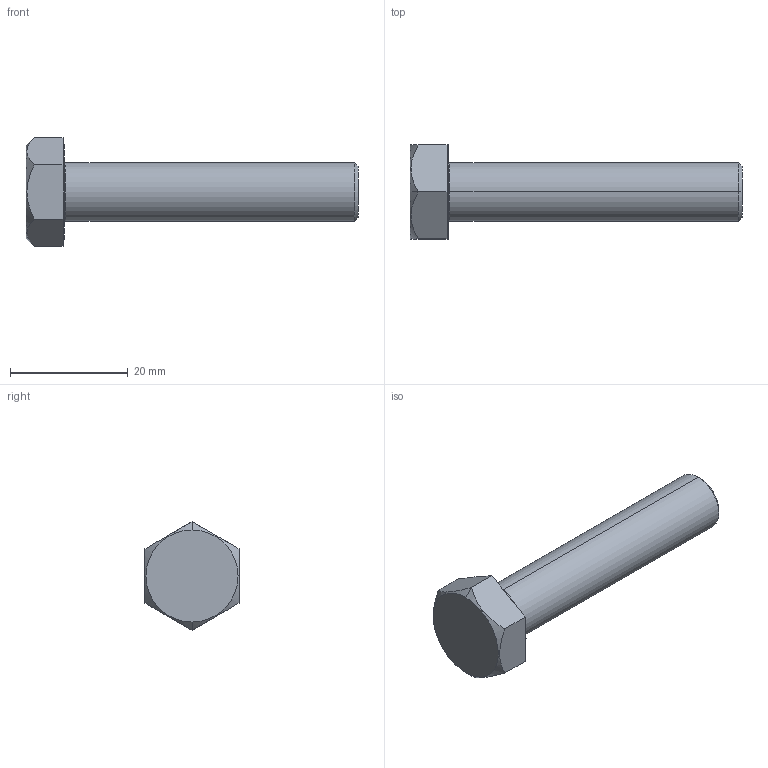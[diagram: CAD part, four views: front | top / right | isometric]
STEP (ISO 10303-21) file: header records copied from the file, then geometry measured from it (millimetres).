
FILE_DESCRIPTION (( 'STEP AP203' ), '1' );
FILE_NAME ('LGN-TD-M10x50.STEP', '2026-08-14T04:49:22', ( '' ), ( '' ), 'SwSTEP 2.0', 'SolidWorks 2020', '' );
FILE_SCHEMA (( 'CONFIG_CONTROL_DESIGN' ));
Length unit declared in the file: millimetre
Products named in the file (1): LGN-TD-M10x50
Bounding box: 56.5 x 16 x 18.48 mm (x, y, z)
Volume: 5347.4 mm3; surface area: 2337.3 mm2
Topology: 1 solids, 1 shells, 25 faces, 54 edges, 32 vertices
Faces by surface type: plane 15, cone 4, cylinder 4, torus 2
Entity records: 811 total; most frequent: CARTESIAN_POINT 184, DIRECTION 122, ORIENTED_EDGE 108, EDGE_CURVE 54, AXIS2_PLACEMENT_3D 48, VERTEX_POINT 32, LINE 26, EDGE_LOOP 26
